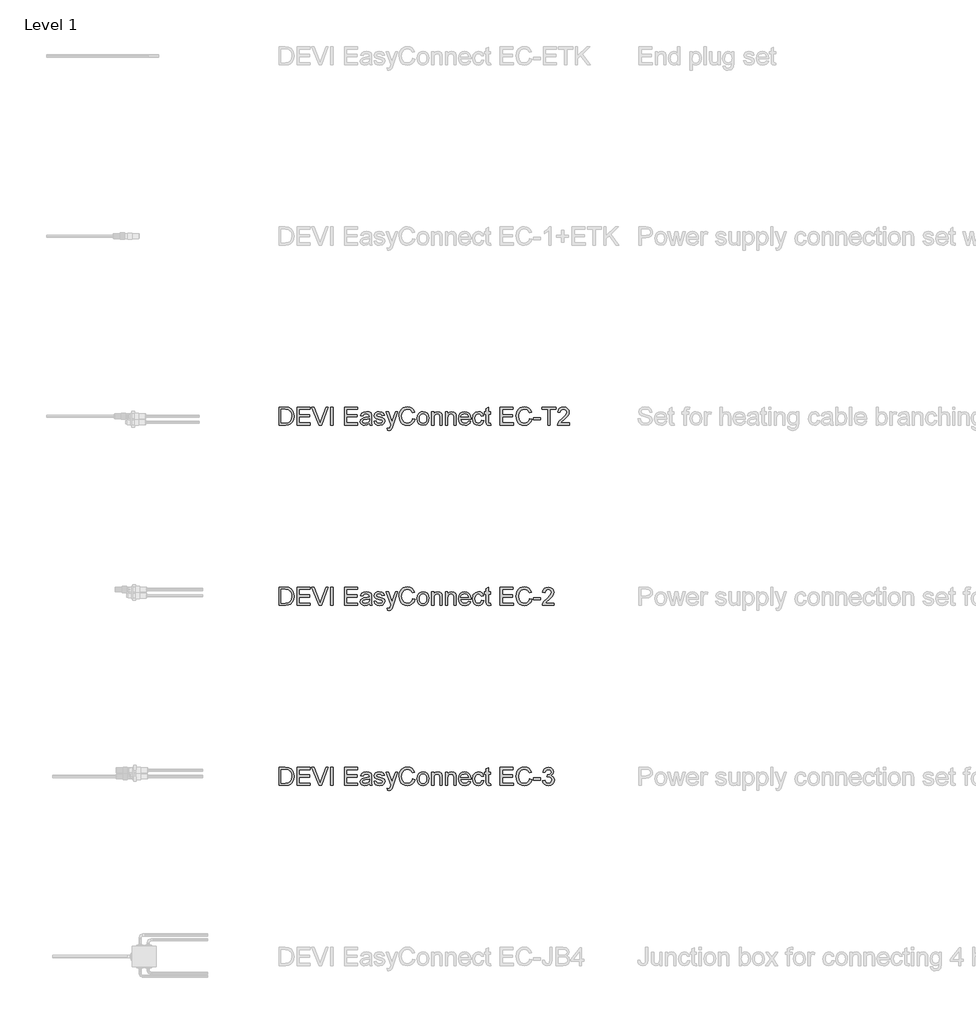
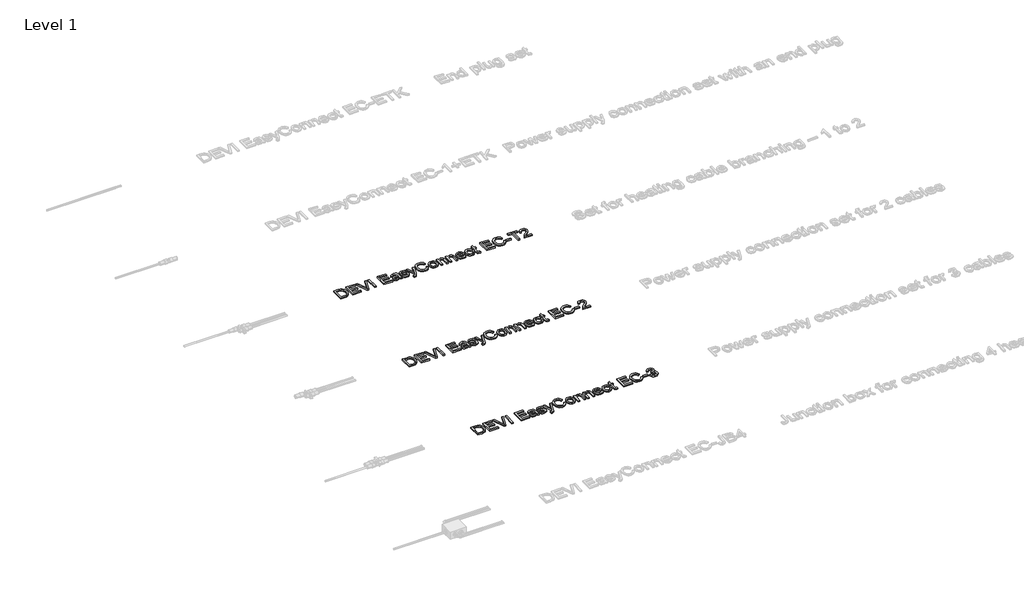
# One storey, part 3 of 11: 3 proxies.
"""IFC4 building model written with IfcOpenShell, lengths in millimetres."""

from ifc_helpers import new_model, si_unit, origin, origin_with_axes, place, context, project, spatial, polyline, outline, extrude, element, save

model = new_model("IFC4")

# Units and contexts
model_context = context("Model", 3, world=origin())
ifc_project = project(units=[si_unit("LENGTHUNIT", "METRE", prefix="MILLI")], contexts=[model_context])

# Site, building, storey
site = spatial("IfcSite", under=ifc_project)
building = spatial("IfcBuilding", under=site)
storey = spatial("IfcBuildingStorey", under=building, Name="Level 1", Elevation=0.0)

# Proxies
placement = place(None, origin())
element("IfcBuildingElementProxy", 1, Name="100mm Arial", ObjectType="100mm Arial", at=placement, inside=storey, context=model_context, shape_type="SweptSolid", body=[
    extrude(outline(polyline([(2544.9544754, 2516.7341496), (2544.9544754, 2617.1904598), (2579.6089593, 2617.1904598), (2597.5370752, 2615.7434572), (2612.3014059, 2608.5574956), (2624.1962571, 2591.3896692), (2628.1448572, 2567.5018649), (2625.4715814, 2547.231567), (2618.6044508, 2532.6021263), (2609.4319264, 2523.4909156), (2597.4267106, 2518.4509323), (2581.276691, 2516.7341496), (2544.9544754, 2516.7341496)]), holes=[polyline([(2557.5115141, 2529.2911884), (2579.7315866, 2529.2911884), (2595.893869, 2531.1060729), (2605.2135462, 2536.2318954), (2612.8532289, 2548.703095), (2615.5878184, 2567.6980687), (2614.2481148, 2581.3832789), (2610.229004, 2591.487771), (2597.1937187, 2602.6223328), (2579.3882301, 2604.633421), (2557.5115141, 2604.633421), (2557.5115141, 2529.2911884)])]), origin_with_axes(), (0.0, 0.0, 1.0), 10.0),
    extrude(outline(polyline([(2645.4107855, 2516.7341496), (2645.4107855, 2617.1904598), (2717.6137584, 2617.1904598), (2717.6137584, 2604.633421), (2657.9678243, 2604.633421), (2657.9678243, 2574.8104539), (2714.4744987, 2574.8104539), (2714.4744987, 2562.2534151), (2657.9678243, 2562.2534151), (2657.9678243, 2529.2911884), (2719.1833883, 2529.2911884), (2719.1833883, 2516.7341496), (2645.4107855, 2516.7341496)])), origin_with_axes(), (0.0, 0.0, 1.0), 10.0),
    extrude(outline(polyline([(2767.6947607, 2516.7341496), (2727.7182506, 2617.1904598), (2741.1582061, 2617.1904598), (2767.9154899, 2544.8158086), (2773.335618, 2528.5063735), (2778.6821696, 2544.8158086), (2805.5130298, 2617.1904598), (2818.9529854, 2617.1904598), (2780.6687324, 2516.7341496), (2767.6947607, 2516.7341496)])), origin_with_axes(), (0.0, 0.0, 1.0), 10.0),
    extrude(outline(polyline([(2832.1967372, 2516.7341496), (2832.1967372, 2617.1904598), (2844.753776, 2617.1904598), (2844.753776, 2516.7341496), (2832.1967372, 2516.7341496)])), origin_with_axes(), (0.0, 0.0, 1.0), 10.0),
    extrude(outline(polyline([(2909.1085996, 2516.7341496), (2909.1085996, 2617.1904598), (2981.3115726, 2617.1904598), (2981.3115726, 2604.633421), (2921.6656384, 2604.633421), (2921.6656384, 2574.8104539), (2978.1723129, 2574.8104539), (2978.1723129, 2562.2534151), (2921.6656384, 2562.2534151), (2921.6656384, 2529.2911884), (2982.8812024, 2529.2911884), (2982.8812024, 2516.7341496), (2909.1085996, 2516.7341496)])), origin_with_axes(), (0.0, 0.0, 1.0), 10.0),
    extrude(outline(polyline([(3047.2360261, 2526.1519287), (3035.0591321, 2517.6415919), (3021.6069138, 2515.1645198), (3011.1130799, 2516.6544418), (3003.3722295, 2521.1242081), (2998.5989607, 2527.9116309), (2997.007871, 2536.3545227), (2999.4113667, 2546.2873366), (3005.7266743, 2553.4978237), (3014.519054, 2557.618102), (3025.3838356, 2559.5065629), (3047.1624497, 2563.823045), (3047.2360261, 2566.6189482), (3043.7779353, 2575.8895744), (3029.8965214, 2579.5193435), (3017.1923298, 2577.103585), (3011.1345396, 2568.5319345), (2998.5775009, 2570.1015644), (3004.0098917, 2582.3642975), (3014.9482497, 2589.5502592), (3031.5152022, 2592.0763822), (3046.733254, 2589.8445648), (3055.32943, 2584.2404957), (3059.1799282, 2575.7178962), (3059.7930649, 2564.7304872), (3059.7930649, 2549.1077652), (3060.430727, 2527.2923629), (3062.9323246, 2516.7341496), (3050.3752858, 2516.7341496), (3047.2360261, 2526.1519287)]), holes=[polyline([(3047.2360261, 2551.2660062), (3026.9779909, 2547.415508), (3016.174523, 2545.3798943), (3011.2816924, 2542.0689563), (3009.5649098, 2537.2374395), (3013.3050434, 2530.4438853), (3024.2801896, 2527.7215585), (3036.9843812, 2530.7259282), (3045.1758869, 2537.9977289), (3047.1624497, 2547.7098136), (3047.2360261, 2551.2660062)])]), origin_with_axes(), (0.0, 0.0, 1.0), 10.0),
    extrude(outline(polyline([(3072.3501036, 2538.7089675), (3084.9071424, 2540.2785973), (3090.7196779, 2530.9589201), (3104.0370062, 2527.7215585), (3116.8392996, 2530.68914), (3121.0086289, 2537.6543724), (3116.8147741, 2543.2952297), (3103.8898534, 2546.8759477), (3084.9807188, 2553.0195771), (3076.7278994, 2560.193276), (3073.9197335, 2570.3222936), (3076.1760764, 2579.678759), (3082.3319684, 2586.8279324), (3090.3150077, 2590.5435406), (3101.1184757, 2592.0763822), (3116.3978412, 2589.6115729), (3126.1099259, 2582.940646), (3130.4264079, 2571.6711942), (3117.8693692, 2570.1015644), (3113.1482169, 2577.0300086), (3102.0994943, 2579.5193435), (3090.0820158, 2577.1403732), (3086.4767723, 2571.5976178), (3087.9728257, 2567.9433233), (3092.6571898, 2565.1719456), (3103.4729204, 2562.4986698), (3121.9038084, 2556.5880324), (3130.4631961, 2549.8925801), (3133.5656676, 2538.9787476), (3129.9236359, 2526.9612691), (3119.4144736, 2518.2424658), (3103.8653279, 2515.1645198), (3091.2040559, 2516.6483105), (3081.9640864, 2521.0996826), (3075.7959317, 2528.4695853), (3072.3501036, 2538.7089675)])), origin_with_axes(), (0.0, 0.0, 1.0), 10.0),
    extrude(outline(polyline([(3147.6923363, 2488.4808124), (3146.1227064, 2500.5718673), (3152.4993277, 2499.4682213), (3158.459016, 2500.8539102), (3162.1133105, 2504.7166711), (3165.5468758, 2513.9627719), (3166.5278944, 2517.0039297), (3139.844187, 2590.5067524), (3153.0879388, 2590.5067524), (3167.2391329, 2549.5492236), (3172.1687517, 2533.1662121), (3177.0983704, 2547.6362372), (3191.6419719, 2590.5067524), (3204.7876219, 2590.5067524), (3179.1094586, 2514.968316), (3172.4385318, 2498.5853045), (3165.1544683, 2489.7316112), (3155.3688072, 2486.9111825), (3147.6923363, 2488.4808124)])), origin_with_axes(), (0.0, 0.0, 1.0), 10.0),
    extrude(outline(polyline([(3287.3893926, 2552.4432286), (3299.9464313, 2549.2058671), (3294.1522899, 2534.5733607), (3285.0594733, 2523.883323), (3273.1155711, 2517.3442206), (3258.7681733, 2515.1645198), (3244.203112, 2516.8138574), (3232.6362889, 2521.7618702), (3223.7703329, 2529.83688), (3217.3078725, 2540.8672085), (3212.0471599, 2567.7225941), (3213.5340163, 2582.3704289), (3217.9945855, 2595.0194382), (3225.1958756, 2605.2680174), (3234.9048946, 2612.7145622), (3246.419601, 2617.2487077), (3259.0379535, 2618.7600896), (3272.8059371, 2616.8041837), (3284.1888192, 2610.9364658), (3292.8309804, 2601.5186868), (3298.3768015, 2588.9125971), (3285.8197627, 2585.9204902), (3275.5190668, 2601.3592712), (3258.5474441, 2606.2030508), (3238.9025456, 2600.8319737), (3227.8047721, 2586.4109995), (3224.6041987, 2567.7471196), (3228.3933833, 2546.1156583), (3240.1901326, 2532.295558), (3257.5173745, 2527.7215585), (3267.9989457, 2529.2789256), (3276.7330774, 2533.951027), (3283.3273622, 2541.6888116), (3287.3893926, 2552.4432286)])), origin_with_axes(), (0.0, 0.0, 1.0), 10.0),
    extrude(outline(polyline([(3312.5034701, 2553.620451), (3315.2196655, 2571.4075455), (3323.3682517, 2583.9094019), (3333.4359556, 2590.0346371), (3345.4902223, 2592.0763822), (3358.6818575, 2589.5901131), (3369.218611, 2582.1313056), (3376.1255955, 2570.2885711), (3378.4279236, 2554.6505206), (3374.3566962, 2532.3078207), (3362.4986332, 2519.6649428), (3345.4902223, 2515.1645198), (3332.1391716, 2517.6415919), (3321.6146808, 2525.0728082), (3314.7812728, 2537.1638631), (3312.5034701, 2553.620451)]), holes=[polyline([(3325.0605089, 2553.6449765), (3326.5136427, 2542.2804885), (3330.8730444, 2534.1840189), (3337.4336066, 2529.3371736), (3345.4902223, 2527.7215585), (3353.5100498, 2529.3463707), (3360.0583493, 2534.2208071), (3364.417751, 2542.4245756), (3365.8708849, 2554.0373839), (3364.4085539, 2565.0707781), (3360.0215611, 2573.0568831), (3353.4640646, 2577.9037284), (3345.4902223, 2579.5193435), (3337.4336066, 2577.9098597), (3330.8730444, 2573.0814085), (3326.5136427, 2565.0033331), (3325.0605089, 2553.6449765)])]), origin_with_axes(), (0.0, 0.0, 1.0), 10.0),
    extrude(outline(polyline([(3392.5545922, 2516.7341496), (3392.5545922, 2590.5067524), (3405.111631, 2590.5067524), (3405.111631, 2580.2060565), (3414.7133511, 2589.1088008), (3427.8222128, 2592.0763822), (3439.6802758, 2589.6851493), (3447.7736797, 2583.4066299), (3451.5383388, 2574.1727918), (3452.2005264, 2562.0326859), (3452.2005264, 2516.7341496), (3439.6434876, 2516.7341496), (3439.6434876, 2560.3404288), (3438.1964851, 2571.450465), (3433.0829254, 2577.3243142), (3424.462224, 2579.5193435), (3410.8383274, 2574.5897247), (3406.5433051, 2567.4466826), (3405.111631, 2555.8767939), (3405.111631, 2516.7341496), (3392.5545922, 2516.7341496)])), origin_with_axes(), (0.0, 0.0, 1.0), 10.0),
    extrude(outline(polyline([(3469.4664547, 2516.7341496), (3469.4664547, 2590.5067524), (3482.0234935, 2590.5067524), (3482.0234935, 2580.2060565), (3491.6252135, 2589.1088008), (3504.7340753, 2592.0763822), (3516.5921383, 2589.6851493), (3524.6855422, 2583.4066299), (3528.4502013, 2574.1727918), (3529.1123889, 2562.0326859), (3529.1123889, 2516.7341496), (3516.5553501, 2516.7341496), (3516.5553501, 2560.3404288), (3515.1083476, 2571.450465), (3509.9947878, 2577.3243142), (3501.3740864, 2579.5193435), (3487.7501899, 2574.5897247), (3483.4551676, 2567.4466826), (3482.0234935, 2555.8767939), (3482.0234935, 2516.7341496), (3469.4664547, 2516.7341496)])), origin_with_axes(), (0.0, 0.0, 1.0), 10.0),
    extrude(outline(polyline([(3598.0289493, 2538.7089675), (3610.3407334, 2537.1393376), (3605.9046897, 2527.86258), (3598.8260269, 2520.9280044), (3589.2641607, 2516.6053909), (3577.3785066, 2515.1645198), (3562.6448327, 2517.6507889), (3551.3079359, 2525.1095964), (3544.0790547, 2537.0565642), (3541.6694276, 2553.0073143), (3544.1035802, 2569.4945591), (3551.4060378, 2581.8247373), (3562.5896504, 2589.513471), (3576.6672681, 2592.0763822), (3590.3064931, 2589.5196024), (3601.2049972, 2581.8492628), (3608.3511049, 2569.54361), (3610.7331408, 2553.0808907), (3610.6595645, 2549.6963764), (3554.2264664, 2549.6963764), (3556.4000358, 2540.2969914), (3561.4492162, 2533.3869413), (3568.7363454, 2529.1379042), (3577.6237613, 2527.7215585), (3589.9355454, 2530.3457834), (3598.0289493, 2538.7089675)]), holes=[polyline([(3554.2264664, 2562.2534151), (3598.1761021, 2562.2534151), (3593.1483815, 2573.6332315), (3585.8275298, 2578.0478155), (3576.6182172, 2579.5193435), (3561.1549106, 2574.8227166), (3556.2896712, 2569.3320779), (3554.2264664, 2562.2534151)])]), origin_with_axes(), (0.0, 0.0, 1.0), 10.0),
    extrude(outline(polyline([(3670.379075, 2543.417857), (3682.9361138, 2541.8482271), (3679.4351034, 2530.6799429), (3672.8561471, 2522.2401168), (3663.8185128, 2516.933419), (3652.9414684, 2515.1645198), (3639.5842863, 2517.6323948), (3629.1395033, 2525.03602), (3622.3980658, 2537.0504328), (3620.1509199, 2553.3506709), (3623.9891554, 2574.20958), (3635.6878029, 2587.6127473), (3652.7697902, 2592.0763822), (3663.38012, 2590.5435406), (3671.8628657, 2585.9450156), (3677.9482471, 2578.5260621), (3681.3664839, 2568.5319345), (3668.8094452, 2566.9623047), (3662.9846469, 2576.367821), (3652.867892, 2579.5193435), (3644.7530284, 2577.9681077), (3638.3120278, 2573.3144005), (3634.108976, 2565.3068357), (3632.7079587, 2553.6940274), (3634.0783191, 2541.9248692), (3638.1894004, 2533.8897133), (3644.5139051, 2529.2635972), (3652.5245355, 2527.7215585), (3664.358073, 2531.5720567), (3670.379075, 2543.417857)])), origin_with_axes(), (0.0, 0.0, 1.0), 10.0),
    extrude(outline(polyline([(3720.6072301, 2527.2065237), (3722.1768599, 2516.3662676), (3712.7836063, 2515.1645198), (3702.2621812, 2517.2491844), (3697.0137315, 2522.7183634), (3695.4931525, 2536.9676593), (3695.4931525, 2577.9497136), (3686.0753735, 2577.9497136), (3686.0753735, 2590.5067524), (3695.4931525, 2590.5067524), (3695.4931525, 2608.4348683), (3708.0501913, 2615.8170336), (3708.0501913, 2590.5067524), (3720.6072301, 2590.5067524), (3720.6072301, 2577.9497136), (3708.0501913, 2577.9497136), (3708.0501913, 2537.3355413), (3708.7123789, 2530.8608182), (3710.8583572, 2528.5676871), (3715.1380511, 2527.7215585), (3720.6072301, 2527.2065237)])), origin_with_axes(), (0.0, 0.0, 1.0), 10.0),
    extrude(outline(polyline([(3773.9746448, 2516.7341496), (3773.9746448, 2617.1904598), (3846.1776178, 2617.1904598), (3846.1776178, 2604.633421), (3786.5316836, 2604.633421), (3786.5316836, 2574.8104539), (3843.0383581, 2574.8104539), (3843.0383581, 2562.2534151), (3786.5316836, 2562.2534151), (3786.5316836, 2529.2911884), (3847.7472476, 2529.2911884), (3847.7472476, 2516.7341496), (3773.9746448, 2516.7341496)])), origin_with_axes(), (0.0, 0.0, 1.0), 10.0),
    extrude(outline(polyline([(3937.2161488, 2552.4432286), (3949.7731876, 2549.2058671), (3943.9790462, 2534.5733607), (3934.8862295, 2523.883323), (3922.9423274, 2517.3442206), (3908.5949296, 2515.1645198), (3894.0298683, 2516.8138574), (3882.4630452, 2521.7618702), (3873.5970891, 2529.83688), (3867.1346288, 2540.8672085), (3861.8739162, 2567.7225941), (3863.3607726, 2582.3704289), (3867.8213418, 2595.0194382), (3875.0226319, 2605.2680174), (3884.7316509, 2612.7145622), (3896.2463573, 2617.2487077), (3908.8647097, 2618.7600896), (3922.6326934, 2616.8041837), (3934.0155755, 2610.9364658), (3942.6577367, 2601.5186868), (3948.2035578, 2588.9125971), (3935.646519, 2585.9204902), (3925.3458231, 2601.3592712), (3908.3742004, 2606.2030508), (3888.7293019, 2600.8319737), (3877.6315284, 2586.4109995), (3874.430955, 2567.7471196), (3878.2201395, 2546.1156583), (3890.0168889, 2532.295558), (3907.3441308, 2527.7215585), (3917.825702, 2529.2789256), (3926.5598337, 2533.951027), (3933.1541185, 2541.6888116), (3937.2161488, 2552.4432286)])), origin_with_axes(), (0.0, 0.0, 1.0), 10.0),
    extrude(outline(polyline([(3959.1909667, 2546.5571167), (3959.1909667, 2559.1141555), (3998.4317128, 2559.1141555), (3998.4317128, 2546.5571167), (3959.1909667, 2546.5571167)])), origin_with_axes(), (0.0, 0.0, 1.0), 10.0),
    extrude(outline(polyline([(4039.2420888, 2516.7341496), (4039.2420888, 2604.633421), (4006.2798621, 2604.633421), (4006.2798621, 2617.1904598), (4084.7613544, 2617.1904598), (4084.7613544, 2604.633421), (4051.7991276, 2604.633421), (4051.7991276, 2516.7341496), (4039.2420888, 2516.7341496)])), origin_with_axes(), (0.0, 0.0, 1.0), 10.0),
    extrude(outline(polyline([(4158.5339571, 2529.2911884), (4158.5339571, 2516.7341496), (4092.6095036, 2516.7341496), (4093.9584042, 2525.3916392), (4101.5858243, 2538.7212302), (4117.3066482, 2553.2770945), (4138.9871605, 2574.1973173), (4144.4072885, 2588.4220877), (4139.2937288, 2599.9367942), (4125.9396124, 2604.633421), (4112.0214102, 2600.0471588), (4106.7361722, 2587.3674927), (4094.1791334, 2588.9371225), (4097.223357, 2601.0833597), (4103.805379, 2609.9554472), (4113.581843, 2615.3817066), (4126.2093925, 2617.1904598), (4138.9289125, 2615.1793715), (4148.6869824, 2609.1461068), (4154.8949911, 2600.1329979), (4156.9643273, 2589.1823772), (4154.7325099, 2577.2752633), (4147.3135563, 2564.9634792), (4129.3241267, 2547.7588645), (4114.878627, 2535.6800724), (4109.2132443, 2529.2911884), (4158.5339571, 2529.2911884)])), origin_with_axes(), (0.0, 0.0, 1.0), 10.0),
])
element("IfcBuildingElementProxy", 2, Name="100mm Arial", ObjectType="100mm Arial", at=placement, inside=storey, context=model_context, shape_type="SweptSolid", body=[
    extrude(outline(polyline([(2544.9544754, 1516.7341496), (2544.9544754, 1617.1904598), (2579.6089593, 1617.1904598), (2597.5370752, 1615.7434572), (2612.3014059, 1608.5574956), (2624.1962571, 1591.3896692), (2628.1448572, 1567.5018649), (2625.4715814, 1547.231567), (2618.6044508, 1532.6021263), (2609.4319264, 1523.4909156), (2597.4267106, 1518.4509323), (2581.276691, 1516.7341496), (2544.9544754, 1516.7341496)]), holes=[polyline([(2557.5115141, 1529.2911884), (2579.7315866, 1529.2911884), (2595.893869, 1531.1060729), (2605.2135462, 1536.2318954), (2612.8532289, 1548.703095), (2615.5878184, 1567.6980687), (2614.2481148, 1581.3832789), (2610.229004, 1591.487771), (2597.1937187, 1602.6223328), (2579.3882301, 1604.633421), (2557.5115141, 1604.633421), (2557.5115141, 1529.2911884)])]), origin_with_axes(), (0.0, 0.0, 1.0), 10.0),
    extrude(outline(polyline([(2645.4107855, 1516.7341496), (2645.4107855, 1617.1904598), (2717.6137584, 1617.1904598), (2717.6137584, 1604.633421), (2657.9678243, 1604.633421), (2657.9678243, 1574.8104539), (2714.4744987, 1574.8104539), (2714.4744987, 1562.2534151), (2657.9678243, 1562.2534151), (2657.9678243, 1529.2911884), (2719.1833883, 1529.2911884), (2719.1833883, 1516.7341496), (2645.4107855, 1516.7341496)])), origin_with_axes(), (0.0, 0.0, 1.0), 10.0),
    extrude(outline(polyline([(2767.6947607, 1516.7341496), (2727.7182506, 1617.1904598), (2741.1582061, 1617.1904598), (2767.9154899, 1544.8158086), (2773.335618, 1528.5063735), (2778.6821696, 1544.8158086), (2805.5130298, 1617.1904598), (2818.9529854, 1617.1904598), (2780.6687324, 1516.7341496), (2767.6947607, 1516.7341496)])), origin_with_axes(), (0.0, 0.0, 1.0), 10.0),
    extrude(outline(polyline([(2832.1967372, 1516.7341496), (2832.1967372, 1617.1904598), (2844.753776, 1617.1904598), (2844.753776, 1516.7341496), (2832.1967372, 1516.7341496)])), origin_with_axes(), (0.0, 0.0, 1.0), 10.0),
    extrude(outline(polyline([(2909.1085996, 1516.7341496), (2909.1085996, 1617.1904598), (2981.3115726, 1617.1904598), (2981.3115726, 1604.633421), (2921.6656384, 1604.633421), (2921.6656384, 1574.8104539), (2978.1723129, 1574.8104539), (2978.1723129, 1562.2534151), (2921.6656384, 1562.2534151), (2921.6656384, 1529.2911884), (2982.8812024, 1529.2911884), (2982.8812024, 1516.7341496), (2909.1085996, 1516.7341496)])), origin_with_axes(), (0.0, 0.0, 1.0), 10.0),
    extrude(outline(polyline([(3047.2360261, 1526.1519287), (3035.0591321, 1517.6415919), (3021.6069138, 1515.1645198), (3011.1130799, 1516.6544418), (3003.3722295, 1521.1242081), (2998.5989607, 1527.9116309), (2997.007871, 1536.3545227), (2999.4113667, 1546.2873366), (3005.7266743, 1553.4978237), (3014.519054, 1557.618102), (3025.3838356, 1559.5065629), (3047.1624497, 1563.823045), (3047.2360261, 1566.6189482), (3043.7779353, 1575.8895744), (3029.8965214, 1579.5193435), (3017.1923298, 1577.103585), (3011.1345396, 1568.5319345), (2998.5775009, 1570.1015644), (3004.0098917, 1582.3642975), (3014.9482497, 1589.5502592), (3031.5152022, 1592.0763822), (3046.733254, 1589.8445648), (3055.32943, 1584.2404957), (3059.1799282, 1575.7178962), (3059.7930649, 1564.7304872), (3059.7930649, 1549.1077652), (3060.430727, 1527.2923629), (3062.9323246, 1516.7341496), (3050.3752858, 1516.7341496), (3047.2360261, 1526.1519287)]), holes=[polyline([(3047.2360261, 1551.2660062), (3026.9779909, 1547.415508), (3016.174523, 1545.3798943), (3011.2816924, 1542.0689563), (3009.5649098, 1537.2374395), (3013.3050434, 1530.4438853), (3024.2801896, 1527.7215585), (3036.9843812, 1530.7259282), (3045.1758869, 1537.9977289), (3047.1624497, 1547.7098136), (3047.2360261, 1551.2660062)])]), origin_with_axes(), (0.0, 0.0, 1.0), 10.0),
    extrude(outline(polyline([(3072.3501036, 1538.7089675), (3084.9071424, 1540.2785973), (3090.7196779, 1530.9589201), (3104.0370062, 1527.7215585), (3116.8392996, 1530.68914), (3121.0086289, 1537.6543724), (3116.8147741, 1543.2952297), (3103.8898534, 1546.8759477), (3084.9807188, 1553.0195771), (3076.7278994, 1560.193276), (3073.9197335, 1570.3222936), (3076.1760764, 1579.678759), (3082.3319684, 1586.8279324), (3090.3150077, 1590.5435406), (3101.1184757, 1592.0763822), (3116.3978412, 1589.6115729), (3126.1099259, 1582.940646), (3130.4264079, 1571.6711942), (3117.8693692, 1570.1015644), (3113.1482169, 1577.0300086), (3102.0994943, 1579.5193435), (3090.0820158, 1577.1403732), (3086.4767723, 1571.5976178), (3087.9728257, 1567.9433233), (3092.6571898, 1565.1719456), (3103.4729204, 1562.4986698), (3121.9038084, 1556.5880324), (3130.4631961, 1549.8925801), (3133.5656676, 1538.9787476), (3129.9236359, 1526.9612691), (3119.4144736, 1518.2424658), (3103.8653279, 1515.1645198), (3091.2040559, 1516.6483105), (3081.9640864, 1521.0996826), (3075.7959317, 1528.4695853), (3072.3501036, 1538.7089675)])), origin_with_axes(), (0.0, 0.0, 1.0), 10.0),
    extrude(outline(polyline([(3147.6923363, 1488.4808124), (3146.1227064, 1500.5718673), (3152.4993277, 1499.4682213), (3158.459016, 1500.8539102), (3162.1133105, 1504.7166711), (3165.5468758, 1513.9627719), (3166.5278944, 1517.0039297), (3139.844187, 1590.5067524), (3153.0879388, 1590.5067524), (3167.2391329, 1549.5492236), (3172.1687517, 1533.1662121), (3177.0983704, 1547.6362372), (3191.6419719, 1590.5067524), (3204.7876219, 1590.5067524), (3179.1094586, 1514.968316), (3172.4385318, 1498.5853045), (3165.1544683, 1489.7316112), (3155.3688072, 1486.9111825), (3147.6923363, 1488.4808124)])), origin_with_axes(), (0.0, 0.0, 1.0), 10.0),
    extrude(outline(polyline([(3287.3893926, 1552.4432286), (3299.9464313, 1549.2058671), (3294.1522899, 1534.5733607), (3285.0594733, 1523.883323), (3273.1155711, 1517.3442206), (3258.7681733, 1515.1645198), (3244.203112, 1516.8138574), (3232.6362889, 1521.7618702), (3223.7703329, 1529.83688), (3217.3078725, 1540.8672085), (3212.0471599, 1567.7225941), (3213.5340163, 1582.3704289), (3217.9945855, 1595.0194382), (3225.1958756, 1605.2680174), (3234.9048946, 1612.7145622), (3246.419601, 1617.2487077), (3259.0379535, 1618.7600896), (3272.8059371, 1616.8041837), (3284.1888192, 1610.9364658), (3292.8309804, 1601.5186868), (3298.3768015, 1588.9125971), (3285.8197627, 1585.9204902), (3275.5190668, 1601.3592712), (3258.5474441, 1606.2030508), (3238.9025456, 1600.8319737), (3227.8047721, 1586.4109995), (3224.6041987, 1567.7471196), (3228.3933833, 1546.1156583), (3240.1901326, 1532.295558), (3257.5173745, 1527.7215585), (3267.9989457, 1529.2789256), (3276.7330774, 1533.951027), (3283.3273622, 1541.6888116), (3287.3893926, 1552.4432286)])), origin_with_axes(), (0.0, 0.0, 1.0), 10.0),
    extrude(outline(polyline([(3312.5034701, 1553.620451), (3315.2196655, 1571.4075455), (3323.3682517, 1583.9094019), (3333.4359556, 1590.0346371), (3345.4902223, 1592.0763822), (3358.6818575, 1589.5901131), (3369.218611, 1582.1313056), (3376.1255955, 1570.2885711), (3378.4279236, 1554.6505206), (3374.3566962, 1532.3078207), (3362.4986332, 1519.6649428), (3345.4902223, 1515.1645198), (3332.1391716, 1517.6415919), (3321.6146808, 1525.0728082), (3314.7812728, 1537.1638631), (3312.5034701, 1553.620451)]), holes=[polyline([(3325.0605089, 1553.6449765), (3326.5136427, 1542.2804885), (3330.8730444, 1534.1840189), (3337.4336066, 1529.3371736), (3345.4902223, 1527.7215585), (3353.5100498, 1529.3463707), (3360.0583493, 1534.2208071), (3364.417751, 1542.4245756), (3365.8708849, 1554.0373839), (3364.4085539, 1565.0707781), (3360.0215611, 1573.0568831), (3353.4640646, 1577.9037284), (3345.4902223, 1579.5193435), (3337.4336066, 1577.9098597), (3330.8730444, 1573.0814085), (3326.5136427, 1565.0033331), (3325.0605089, 1553.6449765)])]), origin_with_axes(), (0.0, 0.0, 1.0), 10.0),
    extrude(outline(polyline([(3392.5545922, 1516.7341496), (3392.5545922, 1590.5067524), (3405.111631, 1590.5067524), (3405.111631, 1580.2060565), (3414.7133511, 1589.1088008), (3427.8222128, 1592.0763822), (3439.6802758, 1589.6851493), (3447.7736797, 1583.4066299), (3451.5383388, 1574.1727918), (3452.2005264, 1562.0326859), (3452.2005264, 1516.7341496), (3439.6434876, 1516.7341496), (3439.6434876, 1560.3404288), (3438.1964851, 1571.450465), (3433.0829254, 1577.3243142), (3424.462224, 1579.5193435), (3410.8383274, 1574.5897247), (3406.5433051, 1567.4466826), (3405.111631, 1555.8767939), (3405.111631, 1516.7341496), (3392.5545922, 1516.7341496)])), origin_with_axes(), (0.0, 0.0, 1.0), 10.0),
    extrude(outline(polyline([(3469.4664547, 1516.7341496), (3469.4664547, 1590.5067524), (3482.0234935, 1590.5067524), (3482.0234935, 1580.2060565), (3491.6252135, 1589.1088008), (3504.7340753, 1592.0763822), (3516.5921383, 1589.6851493), (3524.6855422, 1583.4066299), (3528.4502013, 1574.1727918), (3529.1123889, 1562.0326859), (3529.1123889, 1516.7341496), (3516.5553501, 1516.7341496), (3516.5553501, 1560.3404288), (3515.1083476, 1571.450465), (3509.9947878, 1577.3243142), (3501.3740864, 1579.5193435), (3487.7501899, 1574.5897247), (3483.4551676, 1567.4466826), (3482.0234935, 1555.8767939), (3482.0234935, 1516.7341496), (3469.4664547, 1516.7341496)])), origin_with_axes(), (0.0, 0.0, 1.0), 10.0),
    extrude(outline(polyline([(3598.0289493, 1538.7089675), (3610.3407334, 1537.1393376), (3605.9046897, 1527.86258), (3598.8260269, 1520.9280044), (3589.2641607, 1516.6053909), (3577.3785066, 1515.1645198), (3562.6448327, 1517.6507889), (3551.3079359, 1525.1095964), (3544.0790547, 1537.0565642), (3541.6694276, 1553.0073143), (3544.1035802, 1569.4945591), (3551.4060378, 1581.8247373), (3562.5896504, 1589.513471), (3576.6672681, 1592.0763822), (3590.3064931, 1589.5196024), (3601.2049972, 1581.8492628), (3608.3511049, 1569.54361), (3610.7331408, 1553.0808907), (3610.6595645, 1549.6963764), (3554.2264664, 1549.6963764), (3556.4000358, 1540.2969914), (3561.4492162, 1533.3869413), (3568.7363454, 1529.1379042), (3577.6237613, 1527.7215585), (3589.9355454, 1530.3457834), (3598.0289493, 1538.7089675)]), holes=[polyline([(3554.2264664, 1562.2534151), (3598.1761021, 1562.2534151), (3593.1483815, 1573.6332315), (3585.8275298, 1578.0478155), (3576.6182172, 1579.5193435), (3561.1549106, 1574.8227166), (3556.2896712, 1569.3320779), (3554.2264664, 1562.2534151)])]), origin_with_axes(), (0.0, 0.0, 1.0), 10.0),
    extrude(outline(polyline([(3670.379075, 1543.417857), (3682.9361138, 1541.8482271), (3679.4351034, 1530.6799429), (3672.8561471, 1522.2401168), (3663.8185128, 1516.933419), (3652.9414684, 1515.1645198), (3639.5842863, 1517.6323948), (3629.1395033, 1525.03602), (3622.3980658, 1537.0504328), (3620.1509199, 1553.3506709), (3623.9891554, 1574.20958), (3635.6878029, 1587.6127473), (3652.7697902, 1592.0763822), (3663.38012, 1590.5435406), (3671.8628657, 1585.9450156), (3677.9482471, 1578.5260621), (3681.3664839, 1568.5319345), (3668.8094452, 1566.9623047), (3662.9846469, 1576.367821), (3652.867892, 1579.5193435), (3644.7530284, 1577.9681077), (3638.3120278, 1573.3144005), (3634.108976, 1565.3068357), (3632.7079587, 1553.6940274), (3634.0783191, 1541.9248692), (3638.1894004, 1533.8897133), (3644.5139051, 1529.2635972), (3652.5245355, 1527.7215585), (3664.358073, 1531.5720567), (3670.379075, 1543.417857)])), origin_with_axes(), (0.0, 0.0, 1.0), 10.0),
    extrude(outline(polyline([(3720.6072301, 1527.2065237), (3722.1768599, 1516.3662676), (3712.7836063, 1515.1645198), (3702.2621812, 1517.2491844), (3697.0137315, 1522.7183634), (3695.4931525, 1536.9676593), (3695.4931525, 1577.9497136), (3686.0753735, 1577.9497136), (3686.0753735, 1590.5067524), (3695.4931525, 1590.5067524), (3695.4931525, 1608.4348683), (3708.0501913, 1615.8170336), (3708.0501913, 1590.5067524), (3720.6072301, 1590.5067524), (3720.6072301, 1577.9497136), (3708.0501913, 1577.9497136), (3708.0501913, 1537.3355413), (3708.7123789, 1530.8608182), (3710.8583572, 1528.5676871), (3715.1380511, 1527.7215585), (3720.6072301, 1527.2065237)])), origin_with_axes(), (0.0, 0.0, 1.0), 10.0),
    extrude(outline(polyline([(3773.9746448, 1516.7341496), (3773.9746448, 1617.1904598), (3846.1776178, 1617.1904598), (3846.1776178, 1604.633421), (3786.5316836, 1604.633421), (3786.5316836, 1574.8104539), (3843.0383581, 1574.8104539), (3843.0383581, 1562.2534151), (3786.5316836, 1562.2534151), (3786.5316836, 1529.2911884), (3847.7472476, 1529.2911884), (3847.7472476, 1516.7341496), (3773.9746448, 1516.7341496)])), origin_with_axes(), (0.0, 0.0, 1.0), 10.0),
    extrude(outline(polyline([(3937.2161488, 1552.4432286), (3949.7731876, 1549.2058671), (3943.9790462, 1534.5733607), (3934.8862295, 1523.883323), (3922.9423274, 1517.3442206), (3908.5949296, 1515.1645198), (3894.0298683, 1516.8138574), (3882.4630452, 1521.7618702), (3873.5970891, 1529.83688), (3867.1346288, 1540.8672085), (3861.8739162, 1567.7225941), (3863.3607726, 1582.3704289), (3867.8213418, 1595.0194382), (3875.0226319, 1605.2680174), (3884.7316509, 1612.7145622), (3896.2463573, 1617.2487077), (3908.8647097, 1618.7600896), (3922.6326934, 1616.8041837), (3934.0155755, 1610.9364658), (3942.6577367, 1601.5186868), (3948.2035578, 1588.9125971), (3935.646519, 1585.9204902), (3925.3458231, 1601.3592712), (3908.3742004, 1606.2030508), (3888.7293019, 1600.8319737), (3877.6315284, 1586.4109995), (3874.430955, 1567.7471196), (3878.2201395, 1546.1156583), (3890.0168889, 1532.295558), (3907.3441308, 1527.7215585), (3917.825702, 1529.2789256), (3926.5598337, 1533.951027), (3933.1541185, 1541.6888116), (3937.2161488, 1552.4432286)])), origin_with_axes(), (0.0, 0.0, 1.0), 10.0),
    extrude(outline(polyline([(3959.1909667, 1546.5571167), (3959.1909667, 1559.1141555), (3998.4317128, 1559.1141555), (3998.4317128, 1546.5571167), (3959.1909667, 1546.5571167)])), origin_with_axes(), (0.0, 0.0, 1.0), 10.0),
    extrude(outline(polyline([(4073.7739454, 1529.2911884), (4073.7739454, 1516.7341496), (4007.8494919, 1516.7341496), (4009.1983926, 1525.3916392), (4016.8258126, 1538.7212302), (4032.5466365, 1553.2770945), (4054.2271488, 1574.1973173), (4059.6472768, 1588.4220877), (4054.5337171, 1599.9367942), (4041.1796007, 1604.633421), (4027.2613985, 1600.0471588), (4021.9761605, 1587.3674927), (4009.4191218, 1588.9371225), (4012.4633453, 1601.0833597), (4019.0453673, 1609.9554472), (4028.8218313, 1615.3817066), (4041.4493808, 1617.1904598), (4054.1689008, 1615.1793715), (4063.9269707, 1609.1461068), (4070.1349794, 1600.1329979), (4072.2043156, 1589.1823772), (4069.9724982, 1577.2752633), (4062.5535446, 1564.9634792), (4044.564115, 1547.7588645), (4030.1186154, 1535.6800724), (4024.4532326, 1529.2911884), (4073.7739454, 1529.2911884)])), origin_with_axes(), (0.0, 0.0, 1.0), 10.0),
])
element("IfcBuildingElementProxy", 3, Name="100mm Arial", ObjectType="100mm Arial", at=placement, inside=storey, context=model_context, shape_type="SweptSolid", body=[
    extrude(outline(polyline([(2544.9544754, 516.7341496), (2544.9544754, 617.1904598), (2579.6089593, 617.1904598), (2597.5370752, 615.7434572), (2612.3014059, 608.5574956), (2624.1962571, 591.3896692), (2628.1448572, 567.5018649), (2625.4715814, 547.231567), (2618.6044508, 532.6021263), (2609.4319264, 523.4909156), (2597.4267106, 518.4509323), (2581.276691, 516.7341496), (2544.9544754, 516.7341496)]), holes=[polyline([(2557.5115141, 529.2911884), (2579.7315866, 529.2911884), (2595.893869, 531.1060729), (2605.2135462, 536.2318954), (2612.8532289, 548.703095), (2615.5878184, 567.6980687), (2614.2481148, 581.3832789), (2610.229004, 591.487771), (2597.1937187, 602.6223328), (2579.3882301, 604.633421), (2557.5115141, 604.633421), (2557.5115141, 529.2911884)])]), origin_with_axes(), (0.0, 0.0, 1.0), 10.0),
    extrude(outline(polyline([(2645.4107855, 516.7341496), (2645.4107855, 617.1904598), (2717.6137584, 617.1904598), (2717.6137584, 604.633421), (2657.9678243, 604.633421), (2657.9678243, 574.8104539), (2714.4744987, 574.8104539), (2714.4744987, 562.2534151), (2657.9678243, 562.2534151), (2657.9678243, 529.2911884), (2719.1833883, 529.2911884), (2719.1833883, 516.7341496), (2645.4107855, 516.7341496)])), origin_with_axes(), (0.0, 0.0, 1.0), 10.0),
    extrude(outline(polyline([(2767.6947607, 516.7341496), (2727.7182506, 617.1904598), (2741.1582061, 617.1904598), (2767.9154899, 544.8158086), (2773.335618, 528.5063735), (2778.6821696, 544.8158086), (2805.5130298, 617.1904598), (2818.9529854, 617.1904598), (2780.6687324, 516.7341496), (2767.6947607, 516.7341496)])), origin_with_axes(), (0.0, 0.0, 1.0), 10.0),
    extrude(outline(polyline([(2832.1967372, 516.7341496), (2832.1967372, 617.1904598), (2844.753776, 617.1904598), (2844.753776, 516.7341496), (2832.1967372, 516.7341496)])), origin_with_axes(), (0.0, 0.0, 1.0), 10.0),
    extrude(outline(polyline([(2909.1085996, 516.7341496), (2909.1085996, 617.1904598), (2981.3115726, 617.1904598), (2981.3115726, 604.633421), (2921.6656384, 604.633421), (2921.6656384, 574.8104539), (2978.1723129, 574.8104539), (2978.1723129, 562.2534151), (2921.6656384, 562.2534151), (2921.6656384, 529.2911884), (2982.8812024, 529.2911884), (2982.8812024, 516.7341496), (2909.1085996, 516.7341496)])), origin_with_axes(), (0.0, 0.0, 1.0), 10.0),
    extrude(outline(polyline([(3047.2360261, 526.1519287), (3035.0591321, 517.6415919), (3021.6069138, 515.1645198), (3011.1130799, 516.6544418), (3003.3722295, 521.1242081), (2998.5989607, 527.9116309), (2997.007871, 536.3545227), (2999.4113667, 546.2873366), (3005.7266743, 553.4978237), (3014.519054, 557.618102), (3025.3838356, 559.5065629), (3047.1624497, 563.823045), (3047.2360261, 566.6189482), (3043.7779353, 575.8895744), (3029.8965214, 579.5193435), (3017.1923298, 577.103585), (3011.1345396, 568.5319345), (2998.5775009, 570.1015644), (3004.0098917, 582.3642975), (3014.9482497, 589.5502592), (3031.5152022, 592.0763822), (3046.733254, 589.8445648), (3055.32943, 584.2404957), (3059.1799282, 575.7178962), (3059.7930649, 564.7304872), (3059.7930649, 549.1077652), (3060.430727, 527.2923629), (3062.9323246, 516.7341496), (3050.3752858, 516.7341496), (3047.2360261, 526.1519287)]), holes=[polyline([(3047.2360261, 551.2660062), (3026.9779909, 547.415508), (3016.174523, 545.3798943), (3011.2816924, 542.0689563), (3009.5649098, 537.2374395), (3013.3050434, 530.4438853), (3024.2801896, 527.7215585), (3036.9843812, 530.7259282), (3045.1758869, 537.9977289), (3047.1624497, 547.7098136), (3047.2360261, 551.2660062)])]), origin_with_axes(), (0.0, 0.0, 1.0), 10.0),
    extrude(outline(polyline([(3072.3501036, 538.7089675), (3084.9071424, 540.2785973), (3090.7196779, 530.9589201), (3104.0370062, 527.7215585), (3116.8392996, 530.68914), (3121.0086289, 537.6543724), (3116.8147741, 543.2952297), (3103.8898534, 546.8759477), (3084.9807188, 553.0195771), (3076.7278994, 560.193276), (3073.9197335, 570.3222936), (3076.1760764, 579.678759), (3082.3319684, 586.8279324), (3090.3150077, 590.5435406), (3101.1184757, 592.0763822), (3116.3978412, 589.6115729), (3126.1099259, 582.940646), (3130.4264079, 571.6711942), (3117.8693692, 570.1015644), (3113.1482169, 577.0300086), (3102.0994943, 579.5193435), (3090.0820158, 577.1403732), (3086.4767723, 571.5976178), (3087.9728257, 567.9433233), (3092.6571898, 565.1719456), (3103.4729204, 562.4986698), (3121.9038084, 556.5880324), (3130.4631961, 549.8925801), (3133.5656676, 538.9787476), (3129.9236359, 526.9612691), (3119.4144736, 518.2424658), (3103.8653279, 515.1645198), (3091.2040559, 516.6483105), (3081.9640864, 521.0996826), (3075.7959317, 528.4695853), (3072.3501036, 538.7089675)])), origin_with_axes(), (0.0, 0.0, 1.0), 10.0),
    extrude(outline(polyline([(3147.6923363, 488.4808124), (3146.1227064, 500.5718673), (3152.4993277, 499.4682213), (3158.459016, 500.8539102), (3162.1133105, 504.7166711), (3165.5468758, 513.9627719), (3166.5278944, 517.0039297), (3139.844187, 590.5067524), (3153.0879388, 590.5067524), (3167.2391329, 549.5492236), (3172.1687517, 533.1662121), (3177.0983704, 547.6362372), (3191.6419719, 590.5067524), (3204.7876219, 590.5067524), (3179.1094586, 514.968316), (3172.4385318, 498.5853045), (3165.1544683, 489.7316112), (3155.3688072, 486.9111825), (3147.6923363, 488.4808124)])), origin_with_axes(), (0.0, 0.0, 1.0), 10.0),
    extrude(outline(polyline([(3287.3893926, 552.4432286), (3299.9464313, 549.2058671), (3294.1522899, 534.5733607), (3285.0594733, 523.883323), (3273.1155711, 517.3442206), (3258.7681733, 515.1645198), (3244.203112, 516.8138574), (3232.6362889, 521.7618702), (3223.7703329, 529.83688), (3217.3078725, 540.8672085), (3212.0471599, 567.7225941), (3213.5340163, 582.3704289), (3217.9945855, 595.0194382), (3225.1958756, 605.2680174), (3234.9048946, 612.7145622), (3246.419601, 617.2487077), (3259.0379535, 618.7600896), (3272.8059371, 616.8041837), (3284.1888192, 610.9364658), (3292.8309804, 601.5186868), (3298.3768015, 588.9125971), (3285.8197627, 585.9204902), (3275.5190668, 601.3592712), (3258.5474441, 606.2030508), (3238.9025456, 600.8319737), (3227.8047721, 586.4109995), (3224.6041987, 567.7471196), (3228.3933833, 546.1156583), (3240.1901326, 532.295558), (3257.5173745, 527.7215585), (3267.9989457, 529.2789256), (3276.7330774, 533.951027), (3283.3273622, 541.6888116), (3287.3893926, 552.4432286)])), origin_with_axes(), (0.0, 0.0, 1.0), 10.0),
    extrude(outline(polyline([(3312.5034701, 553.620451), (3315.2196655, 571.4075455), (3323.3682517, 583.9094019), (3333.4359556, 590.0346371), (3345.4902223, 592.0763822), (3358.6818575, 589.5901131), (3369.218611, 582.1313056), (3376.1255955, 570.2885711), (3378.4279236, 554.6505206), (3374.3566962, 532.3078207), (3362.4986332, 519.6649428), (3345.4902223, 515.1645198), (3332.1391716, 517.6415919), (3321.6146808, 525.0728082), (3314.7812728, 537.1638631), (3312.5034701, 553.620451)]), holes=[polyline([(3325.0605089, 553.6449765), (3326.5136427, 542.2804885), (3330.8730444, 534.1840189), (3337.4336066, 529.3371736), (3345.4902223, 527.7215585), (3353.5100498, 529.3463707), (3360.0583493, 534.2208071), (3364.417751, 542.4245756), (3365.8708849, 554.0373839), (3364.4085539, 565.0707781), (3360.0215611, 573.0568831), (3353.4640646, 577.9037284), (3345.4902223, 579.5193435), (3337.4336066, 577.9098597), (3330.8730444, 573.0814085), (3326.5136427, 565.0033331), (3325.0605089, 553.6449765)])]), origin_with_axes(), (0.0, 0.0, 1.0), 10.0),
    extrude(outline(polyline([(3392.5545922, 516.7341496), (3392.5545922, 590.5067524), (3405.111631, 590.5067524), (3405.111631, 580.2060565), (3414.7133511, 589.1088008), (3427.8222128, 592.0763822), (3439.6802758, 589.6851493), (3447.7736797, 583.4066299), (3451.5383388, 574.1727918), (3452.2005264, 562.0326859), (3452.2005264, 516.7341496), (3439.6434876, 516.7341496), (3439.6434876, 560.3404288), (3438.1964851, 571.450465), (3433.0829254, 577.3243142), (3424.462224, 579.5193435), (3410.8383274, 574.5897247), (3406.5433051, 567.4466826), (3405.111631, 555.8767939), (3405.111631, 516.7341496), (3392.5545922, 516.7341496)])), origin_with_axes(), (0.0, 0.0, 1.0), 10.0),
    extrude(outline(polyline([(3469.4664547, 516.7341496), (3469.4664547, 590.5067524), (3482.0234935, 590.5067524), (3482.0234935, 580.2060565), (3491.6252135, 589.1088008), (3504.7340753, 592.0763822), (3516.5921383, 589.6851493), (3524.6855422, 583.4066299), (3528.4502013, 574.1727918), (3529.1123889, 562.0326859), (3529.1123889, 516.7341496), (3516.5553501, 516.7341496), (3516.5553501, 560.3404288), (3515.1083476, 571.450465), (3509.9947878, 577.3243142), (3501.3740864, 579.5193435), (3487.7501899, 574.5897247), (3483.4551676, 567.4466826), (3482.0234935, 555.8767939), (3482.0234935, 516.7341496), (3469.4664547, 516.7341496)])), origin_with_axes(), (0.0, 0.0, 1.0), 10.0),
    extrude(outline(polyline([(3598.0289493, 538.7089675), (3610.3407334, 537.1393376), (3605.9046897, 527.86258), (3598.8260269, 520.9280044), (3589.2641607, 516.6053909), (3577.3785066, 515.1645198), (3562.6448327, 517.6507889), (3551.3079359, 525.1095964), (3544.0790547, 537.0565642), (3541.6694276, 553.0073143), (3544.1035802, 569.4945591), (3551.4060378, 581.8247373), (3562.5896504, 589.513471), (3576.6672681, 592.0763822), (3590.3064931, 589.5196024), (3601.2049972, 581.8492628), (3608.3511049, 569.54361), (3610.7331408, 553.0808907), (3610.6595645, 549.6963764), (3554.2264664, 549.6963764), (3556.4000358, 540.2969914), (3561.4492162, 533.3869413), (3568.7363454, 529.1379042), (3577.6237613, 527.7215585), (3589.9355454, 530.3457834), (3598.0289493, 538.7089675)]), holes=[polyline([(3554.2264664, 562.2534151), (3598.1761021, 562.2534151), (3593.1483815, 573.6332315), (3585.8275298, 578.0478155), (3576.6182172, 579.5193435), (3561.1549106, 574.8227166), (3556.2896712, 569.3320779), (3554.2264664, 562.2534151)])]), origin_with_axes(), (0.0, 0.0, 1.0), 10.0),
    extrude(outline(polyline([(3670.379075, 543.417857), (3682.9361138, 541.8482271), (3679.4351034, 530.6799429), (3672.8561471, 522.2401168), (3663.8185128, 516.933419), (3652.9414684, 515.1645198), (3639.5842863, 517.6323948), (3629.1395033, 525.03602), (3622.3980658, 537.0504328), (3620.1509199, 553.3506709), (3623.9891554, 574.20958), (3635.6878029, 587.6127473), (3652.7697902, 592.0763822), (3663.38012, 590.5435406), (3671.8628657, 585.9450156), (3677.9482471, 578.5260621), (3681.3664839, 568.5319345), (3668.8094452, 566.9623047), (3662.9846469, 576.367821), (3652.867892, 579.5193435), (3644.7530284, 577.9681077), (3638.3120278, 573.3144005), (3634.108976, 565.3068357), (3632.7079587, 553.6940274), (3634.0783191, 541.9248692), (3638.1894004, 533.8897133), (3644.5139051, 529.2635972), (3652.5245355, 527.7215585), (3664.358073, 531.5720567), (3670.379075, 543.417857)])), origin_with_axes(), (0.0, 0.0, 1.0), 10.0),
    extrude(outline(polyline([(3720.6072301, 527.2065237), (3722.1768599, 516.3662676), (3712.7836063, 515.1645198), (3702.2621812, 517.2491844), (3697.0137315, 522.7183634), (3695.4931525, 536.9676593), (3695.4931525, 577.9497136), (3686.0753735, 577.9497136), (3686.0753735, 590.5067524), (3695.4931525, 590.5067524), (3695.4931525, 608.4348683), (3708.0501913, 615.8170336), (3708.0501913, 590.5067524), (3720.6072301, 590.5067524), (3720.6072301, 577.9497136), (3708.0501913, 577.9497136), (3708.0501913, 537.3355413), (3708.7123789, 530.8608182), (3710.8583572, 528.5676871), (3715.1380511, 527.7215585), (3720.6072301, 527.2065237)])), origin_with_axes(), (0.0, 0.0, 1.0), 10.0),
    extrude(outline(polyline([(3773.9746448, 516.7341496), (3773.9746448, 617.1904598), (3846.1776178, 617.1904598), (3846.1776178, 604.633421), (3786.5316836, 604.633421), (3786.5316836, 574.8104539), (3843.0383581, 574.8104539), (3843.0383581, 562.2534151), (3786.5316836, 562.2534151), (3786.5316836, 529.2911884), (3847.7472476, 529.2911884), (3847.7472476, 516.7341496), (3773.9746448, 516.7341496)])), origin_with_axes(), (0.0, 0.0, 1.0), 10.0),
    extrude(outline(polyline([(3937.2161488, 552.4432286), (3949.7731876, 549.2058671), (3943.9790462, 534.5733607), (3934.8862295, 523.883323), (3922.9423274, 517.3442206), (3908.5949296, 515.1645198), (3894.0298683, 516.8138574), (3882.4630452, 521.7618702), (3873.5970891, 529.83688), (3867.1346288, 540.8672085), (3861.8739162, 567.7225941), (3863.3607726, 582.3704289), (3867.8213418, 595.0194382), (3875.0226319, 605.2680174), (3884.7316509, 612.7145622), (3896.2463573, 617.2487077), (3908.8647097, 618.7600896), (3922.6326934, 616.8041837), (3934.0155755, 610.9364658), (3942.6577367, 601.5186868), (3948.2035578, 588.9125971), (3935.646519, 585.9204902), (3925.3458231, 601.3592712), (3908.3742004, 606.2030508), (3888.7293019, 600.8319737), (3877.6315284, 586.4109995), (3874.430955, 567.7471196), (3878.2201395, 546.1156583), (3890.0168889, 532.295558), (3907.3441308, 527.7215585), (3917.825702, 529.2789256), (3926.5598337, 533.951027), (3933.1541185, 541.6888116), (3937.2161488, 552.4432286)])), origin_with_axes(), (0.0, 0.0, 1.0), 10.0),
    extrude(outline(polyline([(3959.1909667, 546.5571167), (3959.1909667, 559.1141555), (3998.4317128, 559.1141555), (3998.4317128, 546.5571167), (3959.1909667, 546.5571167)])), origin_with_axes(), (0.0, 0.0, 1.0), 10.0),
    extrude(outline(polyline([(4009.4191218, 543.417857), (4021.9761605, 544.9874868), (4028.9046048, 531.7682605), (4041.8663137, 527.7215585), (4050.4747524, 529.1133787), (4057.1211538, 533.2888394), (4062.7865365, 547.0721515), (4057.1702047, 560.0583859), (4042.8963833, 565.1964711), (4034.0917409, 563.823045), (4035.4896925, 576.3800838), (4037.5007807, 576.232931), (4051.7500767, 579.8381745), (4056.4957544, 584.412174), (4058.077647, 590.9236853), (4053.4913848, 600.7461346), (4041.67011, 604.633421), (4029.7016824, 600.7093464), (4023.5457904, 588.9371225), (4010.9887516, 590.5067524), (4014.6859657, 601.7823355), (4021.264922, 610.2007019), (4030.2657681, 615.4430203), (4041.2286516, 617.1904598), (4056.3731271, 613.7446317), (4066.9681285, 604.3268527), (4070.6346858, 591.6594493), (4067.1520695, 580.0834292), (4056.8513737, 571.7692961), (4070.5365839, 563.1853829), (4075.3435753, 546.8514223), (4072.9400796, 534.6132146), (4065.7295925, 524.3860951), (4054.8464168, 517.4699136), (4041.4248553, 515.1645198), (4029.2847495, 517.1326884), (4019.4009866, 523.0371945), (4012.5277246, 532.0686974), (4009.4191218, 543.417857)])), origin_with_axes(), (0.0, 0.0, 1.0), 10.0),
])

save(model, "model.ifc")
